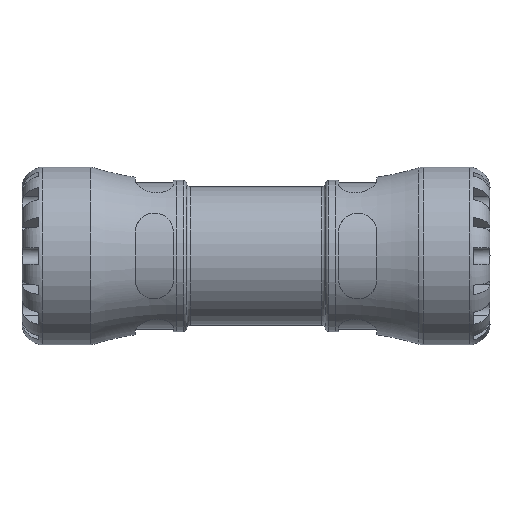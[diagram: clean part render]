
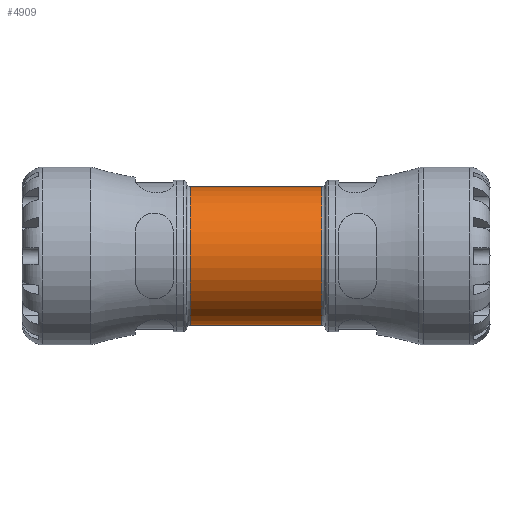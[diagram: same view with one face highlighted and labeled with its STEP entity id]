
A CAD part, front view. The second image highlights one B-rep face of the part: STEP entity #4909.
In plain terms, the highlighted cylindrical face has radius 40.17 mm (diameter 80.34 mm), a full revolution.
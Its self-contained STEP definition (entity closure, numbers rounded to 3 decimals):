
#407=FACE_BOUND('',#1323,.T.);
#426=LINE('',#7437,#682);
#682=VECTOR('',#5823,40.17);
#937=CYLINDRICAL_SURFACE('',#5217,40.17);
#1035=FACE_OUTER_BOUND('',#1322,.T.);
#1322=EDGE_LOOP('',(#3394,#3395,#3396,#3397));
#1323=EDGE_LOOP('',(#3398));
#1626=B_SPLINE_CURVE_WITH_KNOTS('',3,(#7404,#7405,#7406,#7407,#7408,#7409,
#7410,#7411,#7412,#7413,#7414,#7415,#7416,#7417,#7418,#7419,#7420,#7421,
#7422,#7423,#7424,#7425,#7426),.UNSPECIFIED.,.T.,.F.,(4,1,1,1,1,1,1,1,1,
1,1,1,1,1,1,1,1,1,1,1,4),(-14.002,-13.502,-13.002,
-12.002,-11.335,-10.668,-10.002,
-9.335,-8.668,-8.001,-7.334,
-6.668,-6.001,-4.667,-4.001,
-3.334,-2.667,-2.,-1.,
-0.5,0.),.UNSPECIFIED.);
#1823=CIRCLE('',#5218,40.17);
#1824=CIRCLE('',#5219,40.17);
#2130=VERTEX_POINT('',#7373);
#2135=VERTEX_POINT('',#7434);
#2136=VERTEX_POINT('',#7436);
#2623=EDGE_CURVE('',#2130,#2130,#1626,.T.);
#2627=EDGE_CURVE('',#2135,#2135,#1823,.T.);
#2628=EDGE_CURVE('',#2135,#2136,#426,.T.);
#2629=EDGE_CURVE('',#2136,#2136,#1824,.T.);
#3394=ORIENTED_EDGE('',*,*,#2627,.F.);
#3395=ORIENTED_EDGE('',*,*,#2628,.T.);
#3396=ORIENTED_EDGE('',*,*,#2629,.F.);
#3397=ORIENTED_EDGE('',*,*,#2628,.F.);
#3398=ORIENTED_EDGE('',*,*,#2623,.F.);
#4909=ADVANCED_FACE('',(#1035,#407),#937,.T.);
#5217=AXIS2_PLACEMENT_3D('',#7433,#5819,#5820);
#5218=AXIS2_PLACEMENT_3D('',#7435,#5821,#5822);
#5219=AXIS2_PLACEMENT_3D('',#7438,#5824,#5825);
#5819=DIRECTION('center_axis',(1.,0.,0.));
#5820=DIRECTION('ref_axis',(0.,1.,0.));
#5821=DIRECTION('center_axis',(1.,0.,0.));
#5822=DIRECTION('ref_axis',(0.,1.,0.));
#5823=DIRECTION('',(-1.,0.,0.));
#5824=DIRECTION('center_axis',(-1.,0.,0.));
#5825=DIRECTION('ref_axis',(0.,1.,0.));
#7373=CARTESIAN_POINT('',(0.,32.893,23.059));
#7404=CARTESIAN_POINT('Ctrl Pts',(0.,32.893,
23.059));
#7405=CARTESIAN_POINT('Ctrl Pts',(1.812,32.893,23.059));
#7406=CARTESIAN_POINT('Ctrl Pts',(5.435,33.185,22.648));
#7407=CARTESIAN_POINT('Ctrl Pts',(12.146,34.736,20.299));
#7408=CARTESIAN_POINT('Ctrl Pts',(18.085,37.233,15.659));
#7409=CARTESIAN_POINT('Ctrl Pts',(22.279,39.399,8.725));
#7410=CARTESIAN_POINT('Ctrl Pts',(23.956,40.345,1.804));
#7411=CARTESIAN_POINT('Ctrl Pts',(23.385,40.017,-5.35));
#7412=CARTESIAN_POINT('Ctrl Pts',(20.693,38.551,-11.849));
#7413=CARTESIAN_POINT('Ctrl Pts',(16.3,36.442,-17.155));
#7414=CARTESIAN_POINT('Ctrl Pts',(10.551,34.296,-21.013));
#7415=CARTESIAN_POINT('Ctrl Pts',(3.693,32.837,-23.145));
#7416=CARTESIAN_POINT('Ctrl Pts',(-3.695,32.83,-23.147));
#7417=CARTESIAN_POINT('Ctrl Pts',(-12.829,34.796,-20.299));
#7418=CARTESIAN_POINT('Ctrl Pts',(-19.788,38.069,-14.014));
#7419=CARTESIAN_POINT('Ctrl Pts',(-23.389,40.015,-5.351));
#7420=CARTESIAN_POINT('Ctrl Pts',(-23.954,40.345,1.803));
#7421=CARTESIAN_POINT('Ctrl Pts',(-22.28,39.399,8.726));
#7422=CARTESIAN_POINT('Ctrl Pts',(-18.084,37.233,15.658));
#7423=CARTESIAN_POINT('Ctrl Pts',(-12.146,34.736,20.299));
#7424=CARTESIAN_POINT('Ctrl Pts',(-5.435,33.185,22.648));
#7425=CARTESIAN_POINT('Ctrl Pts',(-1.812,32.893,23.059));
#7426=CARTESIAN_POINT('Ctrl Pts',(0.,32.893,
23.059));
#7433=CARTESIAN_POINT('Origin',(20.085,0.,0.));
#7434=CARTESIAN_POINT('',(38.142,-40.17,0.));
#7435=CARTESIAN_POINT('Origin',(38.142,0.,0.));
#7436=CARTESIAN_POINT('',(-38.142,-40.17,0.));
#7437=CARTESIAN_POINT('',(20.085,-40.17,0.));
#7438=CARTESIAN_POINT('Origin',(-38.142,0.,0.));
